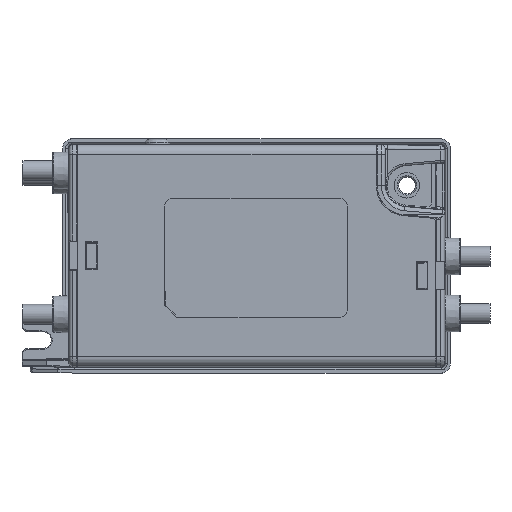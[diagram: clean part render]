
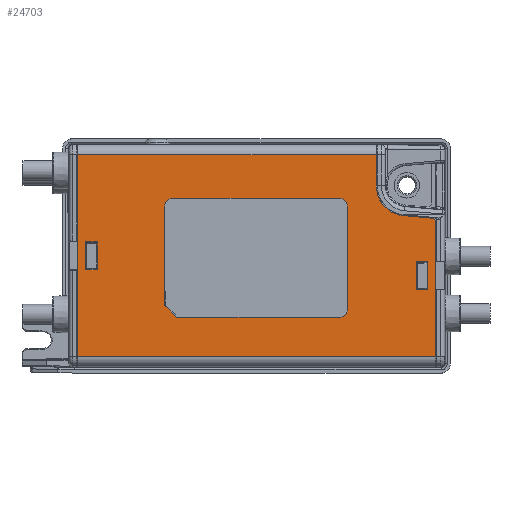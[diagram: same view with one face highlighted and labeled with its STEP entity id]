
A CAD part, top view. The second image highlights one B-rep face of the part: STEP entity #24703.
In plain terms, the highlighted planar face has unit normal (0, 0, 1).
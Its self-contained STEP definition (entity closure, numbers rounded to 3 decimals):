
#151=FACE_BOUND('',#9820,.T.);
#152=FACE_BOUND('',#9821,.T.);
#153=FACE_BOUND('',#9822,.T.);
#2784=LINE('',#39660,#4715);
#2787=LINE('',#39665,#4718);
#2789=LINE('',#39669,#4720);
#2790=LINE('',#39671,#4721);
#2825=LINE('',#39773,#4756);
#2830=LINE('',#39785,#4761);
#2832=LINE('',#39789,#4763);
#2844=LINE('',#39813,#4775);
#3682=LINE('',#44899,#5613);
#3684=LINE('',#44903,#5615);
#3804=LINE('',#45279,#5735);
#3823=LINE('',#45318,#5754);
#3828=LINE('',#45330,#5759);
#3831=LINE('',#45336,#5762);
#3891=LINE('',#45459,#5822);
#3894=LINE('',#45464,#5825);
#3904=LINE('',#45484,#5835);
#4038=LINE('',#46283,#5969);
#4039=LINE('',#46287,#5970);
#4040=LINE('',#46291,#5971);
#4041=LINE('',#46295,#5972);
#4042=LINE('',#46296,#5973);
#4715=VECTOR('',#29897,10.);
#4718=VECTOR('',#29902,10.);
#4720=VECTOR('',#29906,10.);
#4721=VECTOR('',#29909,10.);
#4756=VECTOR('',#30000,10.);
#4761=VECTOR('',#30015,10.);
#4763=VECTOR('',#30019,10.);
#4775=VECTOR('',#30039,10.);
#5613=VECTOR('',#33263,10.);
#5615=VECTOR('',#33267,10.);
#5735=VECTOR('',#33625,10.);
#5754=VECTOR('',#33674,10.);
#5759=VECTOR('',#33683,10.);
#5762=VECTOR('',#33688,10.);
#5822=VECTOR('',#33806,10.);
#5825=VECTOR('',#33811,10.);
#5835=VECTOR('',#33831,10.);
#5969=VECTOR('',#34307,10.);
#5970=VECTOR('',#34310,10.);
#5971=VECTOR('',#34313,10.);
#5972=VECTOR('',#34316,10.);
#5973=VECTOR('',#34317,10.);
#7029=PLANE('',#27284);
#8391=FACE_OUTER_BOUND('',#9819,.T.);
#9819=EDGE_LOOP('',(#23066,#23067,#23068,#23069,#23070,#23071,#23072,#23073));
#9820=EDGE_LOOP('',(#23074,#23075,#23076,#23077));
#9821=EDGE_LOOP('',(#23078,#23079,#23080,#23081));
#9822=EDGE_LOOP('',(#23082,#23083,#23084,#23085,#23086,#23087,#23088,#23089,
#23090,#23091));
#10179=CIRCLE('',#25740,7.5);
#10663=CIRCLE('',#27285,2.);
#10664=CIRCLE('',#27286,2.);
#10665=CIRCLE('',#27287,2.);
#11582=VERTEX_POINT('',#39657);
#11583=VERTEX_POINT('',#39659);
#11584=VERTEX_POINT('',#39663);
#11585=VERTEX_POINT('',#39667);
#11623=VERTEX_POINT('',#39770);
#11624=VERTEX_POINT('',#39772);
#11625=VERTEX_POINT('',#39778);
#11626=VERTEX_POINT('',#39784);
#11627=VERTEX_POINT('',#39788);
#11630=VERTEX_POINT('',#39799);
#12545=VERTEX_POINT('',#44825);
#12575=VERTEX_POINT('',#44896);
#12576=VERTEX_POINT('',#44898);
#12577=VERTEX_POINT('',#44902);
#12685=VERTEX_POINT('',#45321);
#12688=VERTEX_POINT('',#45329);
#12690=VERTEX_POINT('',#45335);
#12724=VERTEX_POINT('',#45458);
#12725=VERTEX_POINT('',#45462);
#12863=VERTEX_POINT('',#46282);
#12864=VERTEX_POINT('',#46284);
#12865=VERTEX_POINT('',#46286);
#12866=VERTEX_POINT('',#46288);
#12867=VERTEX_POINT('',#46290);
#12868=VERTEX_POINT('',#46292);
#12869=VERTEX_POINT('',#46294);
#14163=EDGE_CURVE('',#11583,#11582,#2784,.T.);
#14166=EDGE_CURVE('',#11582,#11584,#2787,.T.);
#14168=EDGE_CURVE('',#11584,#11585,#2789,.T.);
#14169=EDGE_CURVE('',#11585,#11583,#2790,.T.);
#14220=EDGE_CURVE('',#11624,#11623,#2825,.T.);
#14223=EDGE_CURVE('',#11625,#11624,#10179,.T.);
#14226=EDGE_CURVE('',#11626,#11625,#2830,.T.);
#14228=EDGE_CURVE('',#11626,#11627,#2832,.T.);
#14241=EDGE_CURVE('',#11627,#11630,#2844,.T.);
#15779=EDGE_CURVE('',#12576,#12575,#3682,.T.);
#15781=EDGE_CURVE('',#12545,#12577,#3684,.T.);
#15950=EDGE_CURVE('',#11623,#12577,#3804,.T.);
#15969=EDGE_CURVE('',#12545,#11630,#3823,.T.);
#15974=EDGE_CURVE('',#12685,#12688,#3828,.T.);
#15977=EDGE_CURVE('',#12688,#12690,#3831,.T.);
#16038=EDGE_CURVE('',#12724,#12576,#3891,.T.);
#16041=EDGE_CURVE('',#12575,#12725,#3894,.T.);
#16051=EDGE_CURVE('',#12725,#12724,#3904,.T.);
#16276=EDGE_CURVE('',#12690,#12863,#4038,.T.);
#16277=EDGE_CURVE('',#12863,#12864,#10663,.T.);
#16278=EDGE_CURVE('',#12864,#12865,#4039,.T.);
#16279=EDGE_CURVE('',#12865,#12866,#10664,.T.);
#16280=EDGE_CURVE('',#12866,#12867,#4040,.T.);
#16281=EDGE_CURVE('',#12867,#12868,#10665,.T.);
#16282=EDGE_CURVE('',#12868,#12869,#4041,.T.);
#16283=EDGE_CURVE('',#12869,#12685,#4042,.T.);
#23066=ORIENTED_EDGE('',*,*,#14228,.F.);
#23067=ORIENTED_EDGE('',*,*,#14226,.T.);
#23068=ORIENTED_EDGE('',*,*,#14223,.T.);
#23069=ORIENTED_EDGE('',*,*,#14220,.T.);
#23070=ORIENTED_EDGE('',*,*,#15950,.T.);
#23071=ORIENTED_EDGE('',*,*,#15781,.F.);
#23072=ORIENTED_EDGE('',*,*,#15969,.T.);
#23073=ORIENTED_EDGE('',*,*,#14241,.F.);
#23074=ORIENTED_EDGE('',*,*,#16038,.T.);
#23075=ORIENTED_EDGE('',*,*,#15779,.T.);
#23076=ORIENTED_EDGE('',*,*,#16041,.T.);
#23077=ORIENTED_EDGE('',*,*,#16051,.T.);
#23078=ORIENTED_EDGE('',*,*,#14166,.T.);
#23079=ORIENTED_EDGE('',*,*,#14168,.T.);
#23080=ORIENTED_EDGE('',*,*,#14169,.T.);
#23081=ORIENTED_EDGE('',*,*,#14163,.T.);
#23082=ORIENTED_EDGE('',*,*,#16276,.T.);
#23083=ORIENTED_EDGE('',*,*,#16277,.T.);
#23084=ORIENTED_EDGE('',*,*,#16278,.T.);
#23085=ORIENTED_EDGE('',*,*,#16279,.T.);
#23086=ORIENTED_EDGE('',*,*,#16280,.T.);
#23087=ORIENTED_EDGE('',*,*,#16281,.T.);
#23088=ORIENTED_EDGE('',*,*,#16282,.T.);
#23089=ORIENTED_EDGE('',*,*,#16283,.T.);
#23090=ORIENTED_EDGE('',*,*,#15974,.T.);
#23091=ORIENTED_EDGE('',*,*,#15977,.T.);
#24703=ADVANCED_FACE('',(#8391,#151,#152,#153),#7029,.T.);
#25740=AXIS2_PLACEMENT_3D('',#39779,#30007,#30008);
#27284=AXIS2_PLACEMENT_3D('',#46281,#34305,#34306);
#27285=AXIS2_PLACEMENT_3D('',#46285,#34308,#34309);
#27286=AXIS2_PLACEMENT_3D('',#46289,#34311,#34312);
#27287=AXIS2_PLACEMENT_3D('',#46293,#34314,#34315);
#29897=DIRECTION('',(0.,-1.,0.));
#29902=DIRECTION('',(-1.,0.,0.));
#29906=DIRECTION('',(0.,1.,0.));
#29909=DIRECTION('',(1.,0.,0.));
#30000=DIRECTION('',(0.,1.,0.));
#30007=DIRECTION('center_axis',(0.,0.,
-1.));
#30008=DIRECTION('ref_axis',(-1.,0.,0.));
#30015=DIRECTION('',(-0.996,0.087,0.));
#30019=DIRECTION('',(0.676,-0.737,0.));
#30039=DIRECTION('',(0.,-1.,0.));
#33263=DIRECTION('',(0.,1.,0.));
#33267=DIRECTION('',(0.,1.,0.));
#33625=DIRECTION('',(-1.,0.,0.));
#33674=DIRECTION('',(1.,0.,0.));
#33683=DIRECTION('',(-0.707,0.707,0.));
#33688=DIRECTION('',(0.,1.,0.));
#33806=DIRECTION('',(-1.,0.,0.));
#33811=DIRECTION('',(1.,0.,0.));
#33831=DIRECTION('',(0.,-1.,0.));
#34305=DIRECTION('center_axis',(0.,0.,
1.));
#34306=DIRECTION('ref_axis',(0.,-1.,0.));
#34307=DIRECTION('',(0.,1.,0.));
#34308=DIRECTION('center_axis',(0.,0.,
-1.));
#34309=DIRECTION('ref_axis',(-0.707,0.707,0.));
#34310=DIRECTION('',(1.,0.,0.));
#34311=DIRECTION('center_axis',(0.,0.,
-1.));
#34312=DIRECTION('ref_axis',(0.707,0.707,0.));
#34313=DIRECTION('',(0.,-1.,0.));
#34314=DIRECTION('center_axis',(0.,0.,
-1.));
#34315=DIRECTION('ref_axis',(0.707,-0.707,0.));
#34316=DIRECTION('',(-1.,0.,0.));
#34317=DIRECTION('',(-0.707,0.707,0.));
#39657=CARTESIAN_POINT('',(42.2,-8.5,34.9));
#39659=CARTESIAN_POINT('',(42.2,-1.5,34.9));
#39660=CARTESIAN_POINT('',(42.2,-0.75,34.9));
#39663=CARTESIAN_POINT('',(39.2,-8.5,34.9));
#39665=CARTESIAN_POINT('',(20.625,-8.5,34.9));
#39667=CARTESIAN_POINT('',(39.2,-1.5,34.9));
#39669=CARTESIAN_POINT('',(39.2,-4.25,34.9));
#39671=CARTESIAN_POINT('',(19.125,-1.5,34.9));
#39770=CARTESIAN_POINT('',(29.2,25.5,34.9));
#39772=CARTESIAN_POINT('',(29.2,17.6,34.9));
#39773=CARTESIAN_POINT('',(29.2,8.8,34.9));
#39778=CARTESIAN_POINT('',(36.046,10.129,34.9));
#39779=CARTESIAN_POINT('Origin',(36.7,17.6,34.9));
#39784=CARTESIAN_POINT('',(43.702,9.459,34.9));
#39785=CARTESIAN_POINT('',(22.205,11.339,34.9));
#39788=CARTESIAN_POINT('',(44.2,8.915,34.9));
#39789=CARTESIAN_POINT('',(35.992,17.873,34.9));
#39799=CARTESIAN_POINT('',(44.2,-25.5,34.9));
#39813=CARTESIAN_POINT('',(44.2,-28.,34.9));
#44825=CARTESIAN_POINT('',(-46.1,-25.5,34.9));
#44896=CARTESIAN_POINT('',(-44.1,3.5,34.9));
#44898=CARTESIAN_POINT('',(-44.1,-3.5,34.9));
#44899=CARTESIAN_POINT('',(-44.1,0.,34.9));
#44902=CARTESIAN_POINT('',(-46.1,25.5,34.9));
#44903=CARTESIAN_POINT('',(-46.1,28.,34.9));
#45279=CARTESIAN_POINT('',(21.625,25.5,34.9));
#45318=CARTESIAN_POINT('',(-23.525,-25.5,34.9));
#45321=CARTESIAN_POINT('',(-21.625,-15.,34.9));
#45329=CARTESIAN_POINT('',(-24.1,-12.525,34.9));
#45330=CARTESIAN_POINT('',(-20.206,-16.419,34.9));
#45335=CARTESIAN_POINT('',(-24.1,-9.025,34.9));
#45336=CARTESIAN_POINT('',(-24.1,-6.263,34.9));
#45458=CARTESIAN_POINT('',(-41.1,-3.5,34.9));
#45459=CARTESIAN_POINT('',(-21.025,-3.5,34.9));
#45462=CARTESIAN_POINT('',(-41.1,3.5,34.9));
#45464=CARTESIAN_POINT('',(-22.525,3.5,34.9));
#45484=CARTESIAN_POINT('',(-41.1,1.75,34.9));
#46281=CARTESIAN_POINT('Origin',(-0.95,0.,
34.9));
#46282=CARTESIAN_POINT('',(-24.1,12.475,34.9));
#46283=CARTESIAN_POINT('',(-24.1,-7.763,34.9));
#46284=CARTESIAN_POINT('',(-22.1,14.475,34.9));
#46285=CARTESIAN_POINT('Origin',(-22.1,12.475,34.9));
#46286=CARTESIAN_POINT('',(19.9,14.475,34.9));
#46287=CARTESIAN_POINT('',(-12.525,14.475,34.9));
#46288=CARTESIAN_POINT('',(21.9,12.475,34.9));
#46289=CARTESIAN_POINT('Origin',(19.9,12.475,34.9));
#46290=CARTESIAN_POINT('',(21.9,-13.525,34.9));
#46291=CARTESIAN_POINT('',(21.9,7.237,34.9));
#46292=CARTESIAN_POINT('',(19.9,-15.525,34.9));
#46293=CARTESIAN_POINT('Origin',(19.9,-13.525,34.9));
#46294=CARTESIAN_POINT('',(-21.1,-15.525,34.9));
#46295=CARTESIAN_POINT('',(10.475,-15.525,34.9));
#46296=CARTESIAN_POINT('',(-20.694,-15.931,34.9));
